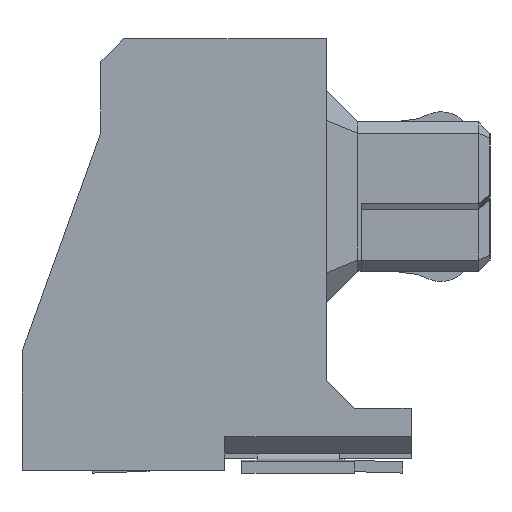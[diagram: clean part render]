
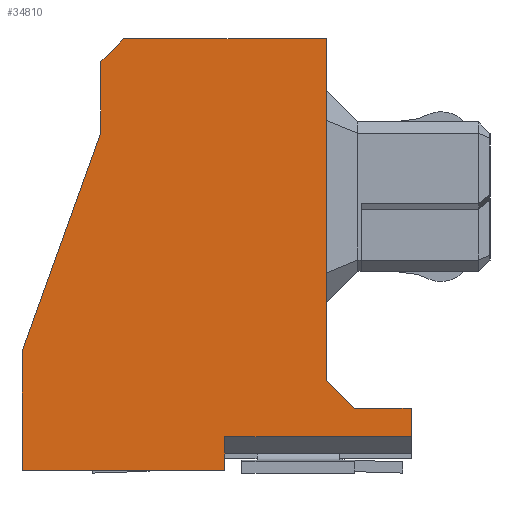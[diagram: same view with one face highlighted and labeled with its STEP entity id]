
A CAD part, left-side view. The second image highlights one B-rep face of the part: STEP entity #34810.
In plain terms, the highlighted planar face has unit normal (-1, 0, 0) as drawn and (0, 0, 1) by its records, which use the part's own axes.
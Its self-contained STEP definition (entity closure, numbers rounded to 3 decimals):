
#17830=CARTESIAN_POINT('',(24.287,-57.914,28.5));
#17840=VERTEX_POINT('',#17830);
#17870=CARTESIAN_POINT('',(45.103,0.,28.5));
#17880=DIRECTION('',(0.338,0.941,0.));
#17890=VECTOR('',#17880,1.);
#17900=LINE('',#17870,#17890);
#17910=CARTESIAN_POINT('',(22.887,-61.809,28.5));
#17920=VERTEX_POINT('',#17910);
#17930=EDGE_CURVE('',#17920,#17840,#17900,.T.);
#19310=CARTESIAN_POINT('',(29.787,-62.809,28.5));
#19320=VERTEX_POINT('',#19310);
#19350=CARTESIAN_POINT('',(0.,-62.809,28.5));
#19360=DIRECTION('',(1.,0.,0.));
#19370=VECTOR('',#19360,1.);
#19380=LINE('',#19350,#19370);
#19390=CARTESIAN_POINT('',(28.787,-62.809,28.5));
#19400=VERTEX_POINT('',#19390);
#19410=EDGE_CURVE('',#19400,#19320,#19380,.T.);
#27660=CARTESIAN_POINT('',(24.287,-56.659,28.5));
#27670=VERTEX_POINT('',#27660);
#27700=CARTESIAN_POINT('',(24.287,0.,28.5));
#27710=DIRECTION('',(0.,1.,0.));
#27720=VECTOR('',#27710,1.);
#27730=LINE('',#27700,#27720);
#27740=EDGE_CURVE('',#17840,#27670,#27730,.T.);
#29530=CARTESIAN_POINT('',(26.487,0.,28.5));
#29540=DIRECTION('',(0.,-1.,0.));
#29550=VECTOR('',#29540,1.);
#29560=LINE('',#29530,#29550);
#29570=CARTESIAN_POINT('',(26.487,-63.314,28.5));
#29580=VERTEX_POINT('',#29570);
#29590=CARTESIAN_POINT('',(26.487,-63.909,28.5));
#29600=VERTEX_POINT('',#29590);
#29610=EDGE_CURVE('',#29580,#29600,#29560,.T.);
#34120=CARTESIAN_POINT('',(0.,0.,28.5));
#34130=DIRECTION('',(0.,0.,1.));
#34140=DIRECTION('',(1.,0.,0.));
#34150=AXIS2_PLACEMENT_3D('',#34120,#34130,#34140);
#34160=PLANE('',#34150);
#34170=CARTESIAN_POINT('',(22.887,0.,28.5));
#34180=DIRECTION('',(0.,1.,0.));
#34190=VECTOR('',#34180,1.);
#34200=LINE('',#34170,#34190);
#34210=CARTESIAN_POINT('',(22.887,-63.909,28.5));
#34220=VERTEX_POINT('',#34210);
#34230=EDGE_CURVE('',#34220,#17920,#34200,.T.);
#34240=ORIENTED_EDGE('',*,*,#34230,.F.);
#34250=ORIENTED_EDGE('',*,*,#17930,.F.);
#34260=ORIENTED_EDGE('',*,*,#27740,.F.);
#34270=CARTESIAN_POINT('',(80.946,0.,28.5));
#34280=DIRECTION('',(0.707,0.707,0.));
#34290=VECTOR('',#34280,1.);
#34300=LINE('',#34270,#34290);
#34310=CARTESIAN_POINT('',(24.687,-56.259,28.5));
#34320=VERTEX_POINT('',#34310);
#34330=EDGE_CURVE('',#27670,#34320,#34300,.T.);
#34340=ORIENTED_EDGE('',*,*,#34330,.F.);
#34350=CARTESIAN_POINT('',(0.,-56.259,28.5));
#34360=DIRECTION('',(1.,0.,0.));
#34370=VECTOR('',#34360,1.);
#34380=LINE('',#34350,#34370);
#34390=CARTESIAN_POINT('',(28.287,-56.259,28.5));
#34400=VERTEX_POINT('',#34390);
#34410=EDGE_CURVE('',#34320,#34400,#34380,.T.);
#34420=ORIENTED_EDGE('',*,*,#34410,.F.);
#34430=CARTESIAN_POINT('',(28.287,0.,28.5));
#34440=DIRECTION('',(0.,1.,0.));
#34450=VECTOR('',#34440,1.);
#34460=LINE('',#34430,#34450);
#34470=CARTESIAN_POINT('',(28.287,-62.309,28.5));
#34480=VERTEX_POINT('',#34470);
#34490=EDGE_CURVE('',#34480,#34400,#34460,.T.);
#34500=ORIENTED_EDGE('',*,*,#34490,.T.);
#34510=CARTESIAN_POINT('',(0.,-34.023,28.5));
#34520=DIRECTION('',(0.707,-0.707,0.));
#34530=VECTOR('',#34520,1.);
#34540=LINE('',#34510,#34530);
#34550=EDGE_CURVE('',#34480,#19400,#34540,.T.);
#34560=ORIENTED_EDGE('',*,*,#34550,.F.);
#34570=ORIENTED_EDGE('',*,*,#19410,.F.);
#34580=CARTESIAN_POINT('',(29.787,0.,28.5));
#34590=DIRECTION('',(0.,-1.,0.));
#34600=VECTOR('',#34590,1.);
#34610=LINE('',#34580,#34600);
#34620=CARTESIAN_POINT('',(29.787,-63.314,28.5));
#34630=VERTEX_POINT('',#34620);
#34640=EDGE_CURVE('',#19320,#34630,#34610,.T.);
#34650=ORIENTED_EDGE('',*,*,#34640,.F.);
#34660=CARTESIAN_POINT('',(0.,-63.314,28.5));
#34670=DIRECTION('',(1.,0.,0.));
#34680=VECTOR('',#34670,1.);
#34690=LINE('',#34660,#34680);
#34700=EDGE_CURVE('',#29580,#34630,#34690,.T.);
#34710=ORIENTED_EDGE('',*,*,#34700,.T.);
#34720=ORIENTED_EDGE('',*,*,#29610,.F.);
#34730=CARTESIAN_POINT('',(0.,-63.909,28.5));
#34740=DIRECTION('',(1.,0.,-0.));
#34750=VECTOR('',#34740,1.);
#34760=LINE('',#34730,#34750);
#34770=EDGE_CURVE('',#34220,#29600,#34760,.T.);
#34780=ORIENTED_EDGE('',*,*,#34770,.T.);
#34790=EDGE_LOOP('',(#34780,#34720,#34710,#34650,#34570,#34560,#34500,
#34420,#34340,#34260,#34250,#34240));
#34800=FACE_OUTER_BOUND('',#34790,.T.);
#34810=ADVANCED_FACE('',(#34800),#34160,.T.);
